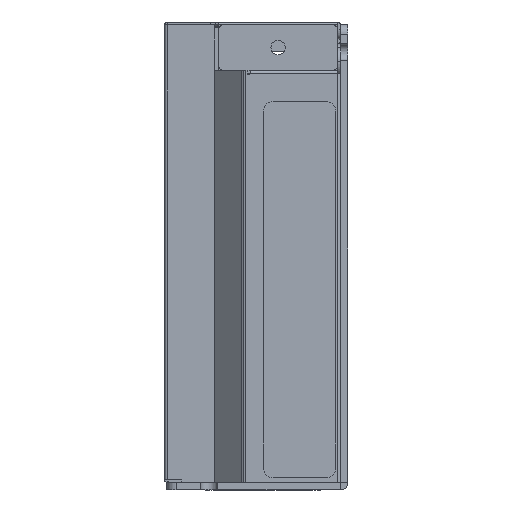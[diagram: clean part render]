
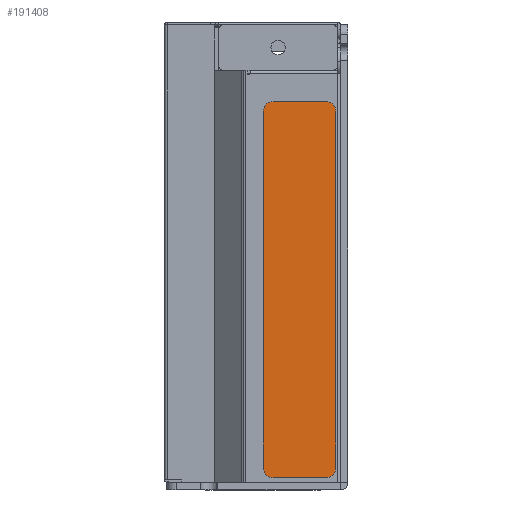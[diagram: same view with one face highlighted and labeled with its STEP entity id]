
A CAD part, left-side view. The second image highlights one B-rep face of the part: STEP entity #191408.
In plain terms, the highlighted planar face has unit normal (-1, 0, 0) as drawn and (0, 0, 1) by its records, which use the part's own axes.
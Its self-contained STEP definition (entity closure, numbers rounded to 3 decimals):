
#191165=CARTESIAN_POINT('',(37.,5.5,0.025));
#191166=DIRECTION('',(0.,0.,-1.));
#191167=DIRECTION('',(0.,1.,0.));
#191168=AXIS2_PLACEMENT_3D('',#191165,#191166,#191167);
#191173=DIRECTION('',(0.,-1.,0.));
#191174=VECTOR('',#191173,11.);
#191175=CARTESIAN_POINT('',(39.,5.5,0.025));
#191176=LINE('',#191175,#191174);
#191180=CARTESIAN_POINT('',(37.,-5.5,0.025));
#191181=DIRECTION('',(0.,0.,-1.));
#191182=DIRECTION('',(1.,0.,0.));
#191183=AXIS2_PLACEMENT_3D('',#191180,#191181,#191182);
#191188=DIRECTION('',(-1.,0.,0.));
#191189=VECTOR('',#191188,74.);
#191190=CARTESIAN_POINT('',(37.,-7.5,0.025));
#191191=LINE('',#191190,#191189);
#191195=CARTESIAN_POINT('',(-37.,-5.5,0.025));
#191196=DIRECTION('',(0.,0.,-1.));
#191197=DIRECTION('',(0.,-1.,0.));
#191198=AXIS2_PLACEMENT_3D('',#191195,#191196,#191197);
#191203=DIRECTION('',(0.,1.,0.));
#191204=VECTOR('',#191203,11.);
#191205=CARTESIAN_POINT('',(-39.,-5.5,0.025));
#191206=LINE('',#191205,#191204);
#191210=CARTESIAN_POINT('',(-37.,5.5,0.025));
#191211=DIRECTION('',(0.,0.,-1.));
#191212=DIRECTION('',(-1.,0.,0.));
#191213=AXIS2_PLACEMENT_3D('',#191210,#191211,#191212);
#191218=DIRECTION('',(1.,0.,0.));
#191219=VECTOR('',#191218,74.);
#191220=CARTESIAN_POINT('',(-37.,7.5,0.025));
#191221=LINE('',#191220,#191219);
#191241=CARTESIAN_POINT('',(39.,5.5,0.025));
#191242=VERTEX_POINT('',#191241);
#191243=CARTESIAN_POINT('',(37.,7.5,0.025));
#191244=VERTEX_POINT('',#191243);
#191245=CARTESIAN_POINT('',(39.,-5.5,0.025));
#191246=VERTEX_POINT('',#191245);
#191247=CARTESIAN_POINT('',(37.,-7.5,0.025));
#191248=VERTEX_POINT('',#191247);
#191249=CARTESIAN_POINT('',(-37.,-7.5,0.025));
#191250=VERTEX_POINT('',#191249);
#191251=CARTESIAN_POINT('',(-39.,-5.5,0.025));
#191252=VERTEX_POINT('',#191251);
#191253=CARTESIAN_POINT('',(-39.,5.5,0.025));
#191254=VERTEX_POINT('',#191253);
#191255=CARTESIAN_POINT('',(-37.,7.5,0.025));
#191256=VERTEX_POINT('',#191255);
#191393=CARTESIAN_POINT('',(0.,0.,0.025));
#191394=DIRECTION('',(0.,0.,1.));
#191395=DIRECTION('',(1.,0.,0.));
#191396=AXIS2_PLACEMENT_3D('',#191393,#191394,#191395);
#191397=PLANE('',#191396);
#191398=ORIENTED_EDGE('',*,*,#191289,.T.);
#191399=ORIENTED_EDGE('',*,*,#191305,.T.);
#191400=ORIENTED_EDGE('',*,*,#191318,.T.);
#191401=ORIENTED_EDGE('',*,*,#191333,.T.);
#191402=ORIENTED_EDGE('',*,*,#191346,.T.);
#191403=ORIENTED_EDGE('',*,*,#191361,.T.);
#191404=ORIENTED_EDGE('',*,*,#191374,.T.);
#191405=ORIENTED_EDGE('',*,*,#191386,.T.);
#191406=EDGE_LOOP('',(#191398,#191399,#191400,#191401,#191402,#191403,#191404,
#191405));
#191407=FACE_OUTER_BOUND('',#191406,.F.);
#191169=CIRCLE('',#191168,2.);
#191184=CIRCLE('',#191183,2.);
#191199=CIRCLE('',#191198,2.);
#191214=CIRCLE('',#191213,2.);
#191289=EDGE_CURVE('',#191244,#191242,#191169,.T.);
#191305=EDGE_CURVE('',#191242,#191246,#191176,.T.);
#191318=EDGE_CURVE('',#191246,#191248,#191184,.T.);
#191333=EDGE_CURVE('',#191248,#191250,#191191,.T.);
#191346=EDGE_CURVE('',#191250,#191252,#191199,.T.);
#191361=EDGE_CURVE('',#191252,#191254,#191206,.T.);
#191374=EDGE_CURVE('',#191254,#191256,#191214,.T.);
#191386=EDGE_CURVE('',#191256,#191244,#191221,.T.);
#191408=ADVANCED_FACE('',(#191407),#191397,.T.);
